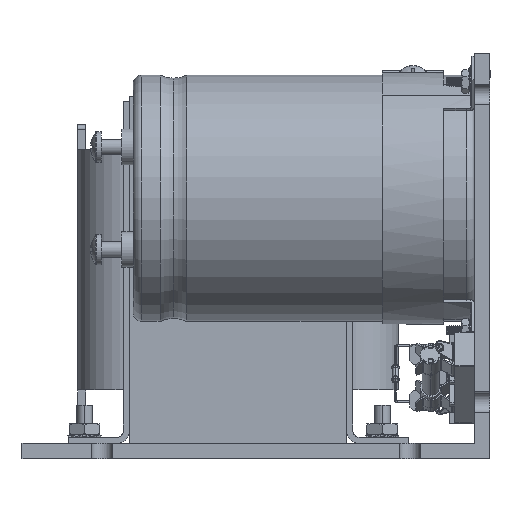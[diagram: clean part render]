
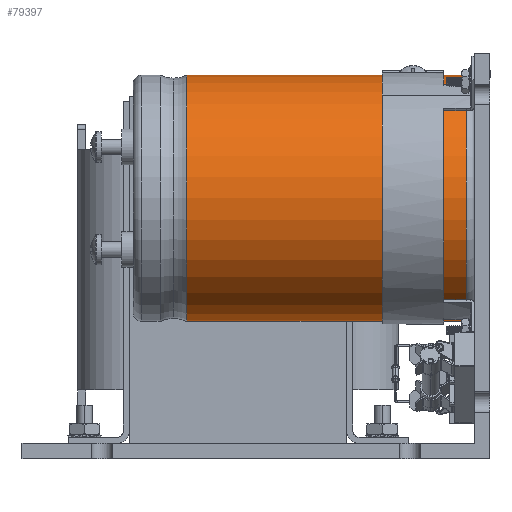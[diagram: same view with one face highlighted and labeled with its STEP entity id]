
A CAD part, left-side view. The second image highlights one B-rep face of the part: STEP entity #79397.
In plain terms, the highlighted cylindrical face has radius 38.1 mm (diameter 76.2 mm), a partial arc.
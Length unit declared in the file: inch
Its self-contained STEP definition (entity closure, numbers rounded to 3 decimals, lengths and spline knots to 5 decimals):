
#78559=CARTESIAN_POINT('',(1.8562,3.693,3.17191));
#78560=DIRECTION('',(0.,1.,0.));
#78561=DIRECTION('',(0.,0.,-1.));
#78562=AXIS2_PLACEMENT_3D('',#78559,#78560,#78561);
#78575=DIRECTION('',(0.,1.,0.));
#78576=VECTOR('',#78575,3.406);
#78577=CARTESIAN_POINT('',(1.8562,0.287,4.67191));
#78578=LINE('',#78577,#78576);
#78582=DIRECTION('',(0.,1.,0.));
#78583=VECTOR('',#78582,3.406);
#78584=CARTESIAN_POINT('',(1.8562,0.287,1.67191));
#78585=LINE('',#78584,#78583);
#78613=CARTESIAN_POINT('',(1.8562,0.287,3.17191));
#78614=DIRECTION('',(0.,-1.,0.));
#78615=DIRECTION('',(0.,0.,1.));
#78616=AXIS2_PLACEMENT_3D('',#78613,#78614,#78615);
#78695=CARTESIAN_POINT('',(1.8562,0.287,1.67191));
#78696=CARTESIAN_POINT('',(1.8562,3.693,1.67191));
#78697=VERTEX_POINT('',#78695);
#78698=VERTEX_POINT('',#78696);
#78711=CARTESIAN_POINT('',(1.8562,0.287,4.67191));
#78712=VERTEX_POINT('',#78711);
#78765=CARTESIAN_POINT('',(1.8562,3.693,4.67191));
#78766=VERTEX_POINT('',#78765);
#79383=CARTESIAN_POINT('',(1.8562,0.187,3.17191));
#79384=DIRECTION('',(0.,-1.,0.));
#79385=DIRECTION('',(0.,0.,1.));
#79386=AXIS2_PLACEMENT_3D('',#79383,#79384,#79385);
#79387=CYLINDRICAL_SURFACE('',#79386,1.5);
#79388=ORIENTED_EDGE('',*,*,#79368,.T.);
#79390=ORIENTED_EDGE('',*,*,#79389,.F.);
#79392=ORIENTED_EDGE('',*,*,#79391,.T.);
#79394=ORIENTED_EDGE('',*,*,#79393,.T.);
#79395=EDGE_LOOP('',(#79388,#79390,#79392,#79394));
#79396=FACE_OUTER_BOUND('',#79395,.F.);
#78563=CIRCLE('',#78562,1.5);
#78617=CIRCLE('',#78616,1.5);
#79368=EDGE_CURVE('',#78698,#78766,#78563,.T.);
#79389=EDGE_CURVE('',#78712,#78766,#78578,.T.);
#79391=EDGE_CURVE('',#78712,#78697,#78617,.T.);
#79393=EDGE_CURVE('',#78697,#78698,#78585,.T.);
#79397=ADVANCED_FACE('',(#79396),#79387,.T.);
